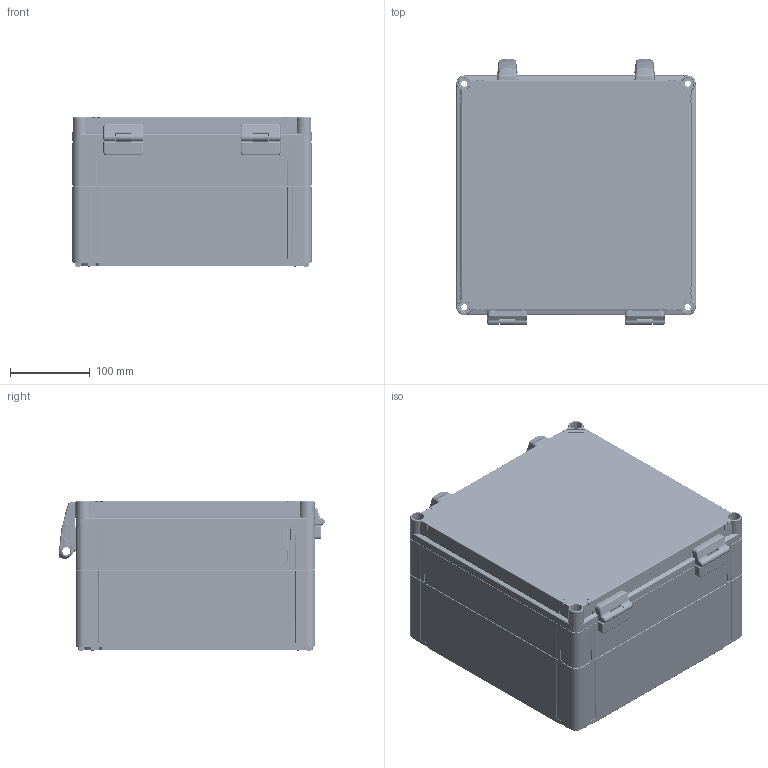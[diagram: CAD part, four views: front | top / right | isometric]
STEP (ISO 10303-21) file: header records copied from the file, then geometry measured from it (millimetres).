
FILE_DESCRIPTION((''),'2;1');
FILE_NAME('WPCP303018G_ASM','2005-11-23T',('mika_leppanen'),(''),'PRO/ENGINEER BY PARAMETRIC TECHNOLOGY CORPORATION, 2005110','PRO/ENGINEER BY PARAMETRIC TECHNOLOGY CORPORATION, 2005110','');
FILE_SCHEMA(('AUTOMOTIVE_DESIGN_CC2 { 1 2 10303 214 -1 1 5 2 }'));
Products named in the file (13): OPCP303010B_AF1; OPCG303003L_AF1; OPCP303006E_AF0; SARANA_KOTELO; SARANA_KANSI; CUBO_O_SARANATAPPI; CUBO_O_HINGE_ASM; PMR2426_KIINNITYSALUSTA; PMR2427_NIVEL; PMR2425_YL_KIINNITYS; PMR2428_ALAKIINNITYS; UUSISALPA_ASM; WPCP303018G_ASM
Assembly tree (14 placements, depth 3):
  WPCP303018G_ASM
    OPCP303010B_AF1
    OPCG303003L_AF1
    OPCP303006E_AF0
    CUBO_O_HINGE_ASM  x2
      SARANA_KOTELO
      SARANA_KANSI
      CUBO_O_SARANATAPPI
    UUSISALPA_ASM  x2
      PMR2426_KIINNITYSALUSTA
      PMR2427_NIVEL
      PMR2425_YL_KIINNITYS
      PMR2428_ALAKIINNITYS
Bounding box: 300 x 333.15 x 187 mm (x, y, z)
Volume: 1904403.2 mm3; surface area: 1048293.9 mm2
Topology: 17 solids, 17 shells, 6881 faces, 17223 edges, 10530 vertices
Faces by surface type: plane 2362, bspline 1582, cylinder 1453, cone 908, torus 474, sphere 102
Entity records: 247553 total; most frequent: CARTESIAN_POINT 83420, ORIENTED_EDGE 27102, DIRECTION 23889, PRESENTATION_STYLE_ASSIGNMENT 13561, STYLED_ITEM 13561, CURVE_STYLE 13551, EDGE_CURVE 13551, AXIS2_PLACEMENT_3D 8570
